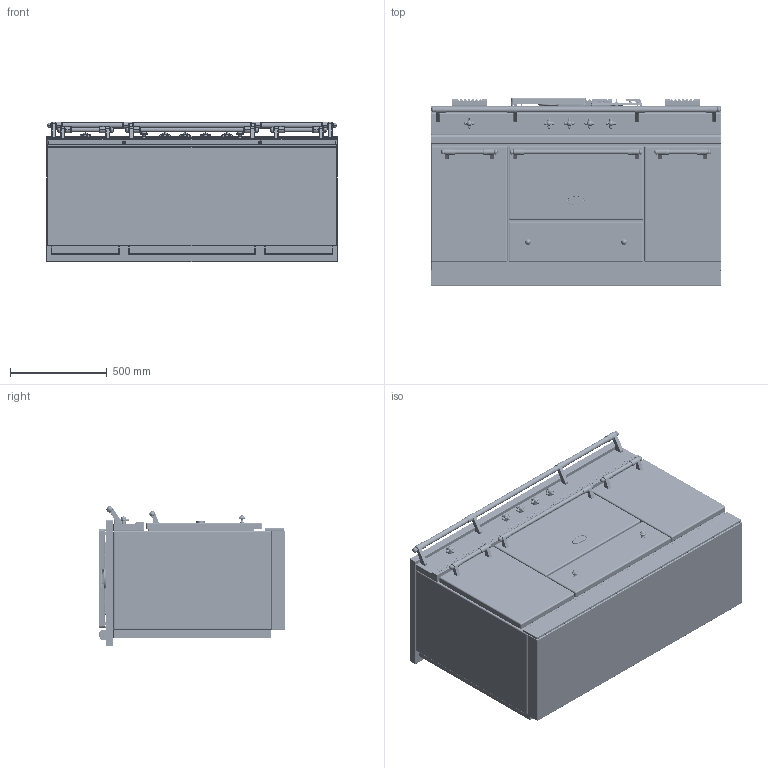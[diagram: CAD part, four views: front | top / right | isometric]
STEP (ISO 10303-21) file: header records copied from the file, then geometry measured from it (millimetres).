
FILE_DESCRIPTION((''),'2;1');
FILE_NAME('LCF1532__ASM','2021-12-02T14:15:00',('r.avril'),(''),'CREO PARAMETRIC BY PTC INC, 2017260','CREO PARAMETRIC BY PTC INC, 2017260','');
FILE_SCHEMA(('AP203_CONFIGURATION_CONTROLLED_3D_DESIGN_OF_MECHANICAL_PARTS_AND_ASSEMBLIES_MIM_LF { 1 0 10303 403 2 1 2 }'));
Products named in the file (29): BASE_EXPORT_FONTENAY_LG1531; 65650003; 65650004; 65650006; 65650007; 6531940; 6531941; 6531943; 65049009; 65650001; 6538399; 1931942; 65080022_AF0; 6531942_ASM; BASE_EXPORT_CITEAUX_LG1532_ASM; TABLE_1505_CLASSIQUE_3_FEUX; 5KW; 1_5KW; 3KW; 6537023; 65149005; 90000565_ASM; 65062008; 65062012; 90000549_ASM; CHEMINEE_2020_LG182_EXPORT_STEP; CHEMINEE_2020_LG371_EXPORT_STEP; TABLE_1505_TRADITION_ASM; LCF1532__ASM
Assembly tree (45 placements, depth 4):
  LCF1532__ASM
    BASE_EXPORT_CITEAUX_LG1532_ASM
      BASE_EXPORT_FONTENAY_LG1531
      65650003
      65650004
      65650006
      65650007
      6531940  x3
      6531941  x3
      6531943  x2
      65049009
      65650001
      6531942_ASM  x5
        6538399
        1931942
        65080022_AF0
    TABLE_1505_TRADITION_ASM
      TABLE_1505_CLASSIQUE_3_FEUX
      5KW
      1_5KW
      3KW
      90000565_ASM
        6537023
        65149005  x4
      90000549_ASM
        65062008
        65062012
        65149005  x4
      CHEMINEE_2020_LG182_EXPORT_STEP  x2
      CHEMINEE_2020_LG371_EXPORT_STEP
Bounding box: 1505 x 967 x 724 mm (x, y, z)
Volume: 550458697.5 mm3; surface area: 13610044.6 mm2
Topology: 56 solids, 68 shells, 7629 faces, 19748 edges, 12320 vertices
Faces by surface type: plane 3746, cylinder 2203, bspline 662, torus 345, sphere 284, cone 211, extrusion 162, revolution 16
Entity records: 236742 total; most frequent: CARTESIAN_POINT 62674, ORIENTED_EDGE 29256, DIRECTION 27066, EDGE_CURVE 14642, VECTOR 9566, PRESENTATION_STYLE_ASSIGNMENT 9558, STYLED_ITEM 9535, LINE 9516
